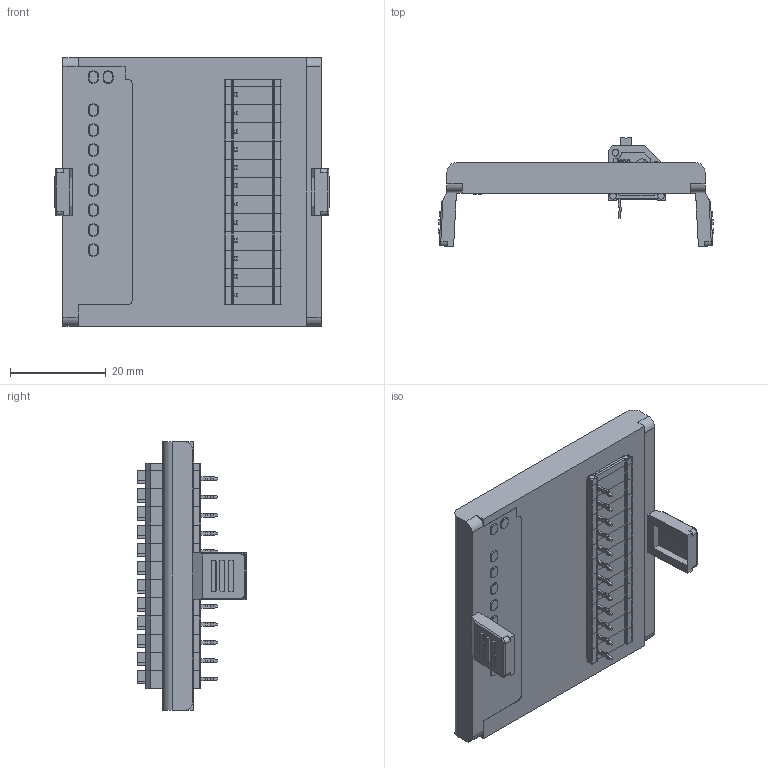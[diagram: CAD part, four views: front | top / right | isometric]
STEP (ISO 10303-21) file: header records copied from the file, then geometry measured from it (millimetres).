
FILE_DESCRIPTION(/* description */ (''),/* implementation_level */ '2;1');
FILE_NAME(/* name */ 'RS-单排欧式端子.stp',/* time_stamp */ '2024-11-15T16:42:07+08:00',/* author */ (''),/* organization */ (''),/* preprocessor_version */ 'ST-DEVELOPER v16',/* originating_system */ 'SIEMENS PLM Software NX 10.0',/* authorisation */ '');
FILE_SCHEMA (('AUTOMOTIVE_DESIGN { 1 0 10303 214 3 1 1 1 }'));
Length unit declared in the file: millimetre
Products named in the file (1): chao23144D82zia0
Bounding box: 57.58 x 22.77 x 56.21 mm (x, y, z)
Volume: 21617 mm3; surface area: 14606.8 mm2
Topology: 16 solids, 16 shells, 1501 faces, 4112 edges, 2689 vertices
Faces by surface type: plane 983, cylinder 386, cone 126, torus 4, bspline 2
Entity records: 47977 total; most frequent: CARTESIAN_POINT 9435, ORIENTED_EDGE 8224, DIRECTION 7868, EDGE_CURVE 4112, LINE 2892, VECTOR 2892, VERTEX_POINT 2689, AXIS2_PLACEMENT_3D 2488
